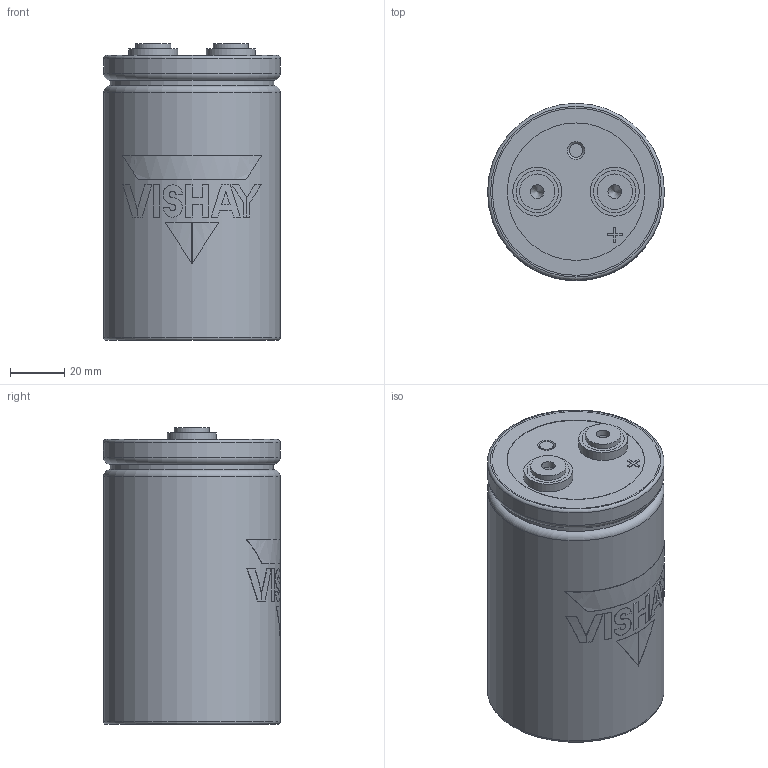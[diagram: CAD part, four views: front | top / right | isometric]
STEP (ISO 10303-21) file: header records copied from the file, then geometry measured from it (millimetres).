
FILE_DESCRIPTION(('FreeCAD Model'),'2;1');
FILE_NAME('C:/Users/tvandesteeg/Documents/Documents/FreeCAD/Stepfiles/ST capacitors/ST_LP_M6_65x105.step','2020-07-02T18:12:41',('Author'),(''), 'Open CASCADE STEP processor 7.3','FreeCAD','Unknown');
FILE_SCHEMA(('AUTOMOTIVE_DESIGN { 1 0 10303 214 1 1 1 1 }'));
Length unit declared in the file: millimetre
Products named in the file (7): VentBody; TerminalBody_(Mirror_#2); TerminalBody; Disc; LogoPrint; CanBody; BottomBody
Bounding box: 65 x 65.1 x 109.2 mm (x, y, z)
Volume: 344980.5 mm3; surface area: 48458.1 mm2
Topology: 17 solids, 17 shells, 149 faces, 313 edges, 206 vertices
Faces by surface type: plane 93, cylinder 48, torus 5, cone 3
Full cylindrical faces by diameter (mm): 5 x4, 13 x2, 15.5 x6, 18 x2, 50.556 x3, 60 x1, 60.6 x2, 65 x2
Entity records: 10623 total; most frequent: CARTESIAN_POINT 3327, DIRECTION 1204, ORIENTED_EDGE 622, PCURVE 622, DEFINITIONAL_REPRESENTATION 622, LINE 532, VECTOR 532, EDGE_CURVE 311
